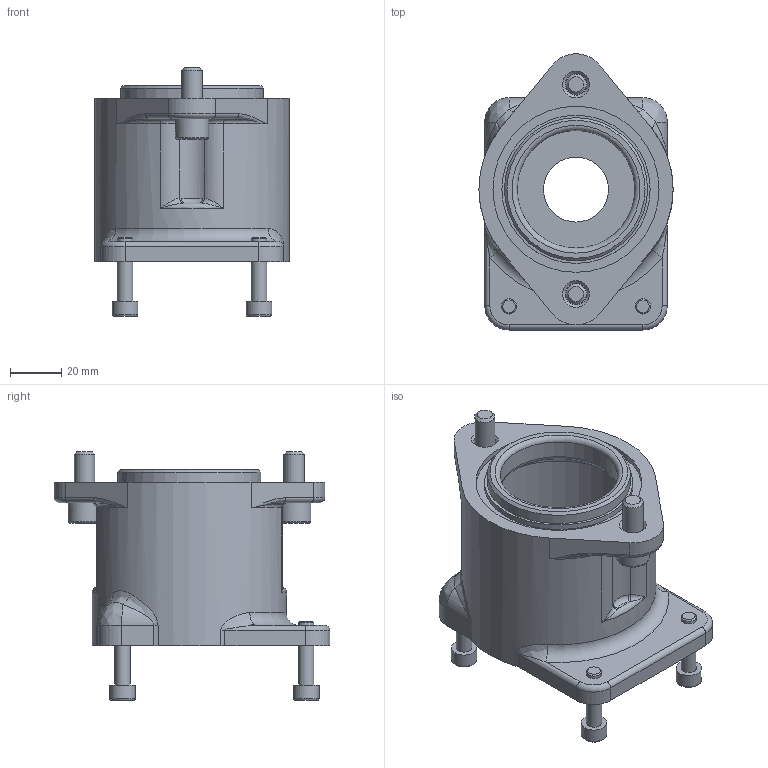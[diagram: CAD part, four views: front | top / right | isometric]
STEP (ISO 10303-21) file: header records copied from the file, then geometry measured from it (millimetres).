
FILE_DESCRIPTION(/* description */ (''),/* implementation_level */ '2;1');
FILE_NAME(/* name */ '3000011000_Semplifica_1.stp',/* time_stamp */ '2023-03-23T11:22:55+01:00',/* author */ ('marcop'),/* organization */ (''),/* preprocessor_version */ 'ST-DEVELOPER v19.2',/* originating_system */ 'Autodesk Inventor 2023',/* authorisation */ '');
FILE_SCHEMA (('AUTOMOTIVE_DESIGN { 1 0 10303 214 3 1 1 }'));
Length unit declared in the file: inch
Products named in the file (1): 3000011000_Semplifica_1
Bounding box: 76 x 107.93 x 97.3 mm (x, y, z)
Volume: 159906.6 mm3; surface area: 50673.2 mm2
Topology: 1 solids, 1 shells, 245 faces, 591 edges, 361 vertices
Faces by surface type: plane 113, cylinder 56, torus 29, cone 25, bspline 22
Full cylindrical faces by diameter (mm): 6 x6, 8 x2, 8.5 x2, 10 x4, 13 x2, 25.4 x1, 30 x1, 46 x1, 50 x1, 56 x1, 58 x1, 60 x1, 64 x2, 65 x1, 76 x1
Entity records: 8142 total; most frequent: CARTESIAN_POINT 2360, ORIENTED_EDGE 1154, DIRECTION 1145, EDGE_CURVE 577, AXIS2_PLACEMENT_3D 460, VERTEX_POINT 361, EDGE_LOOP 274, STYLED_ITEM 246
